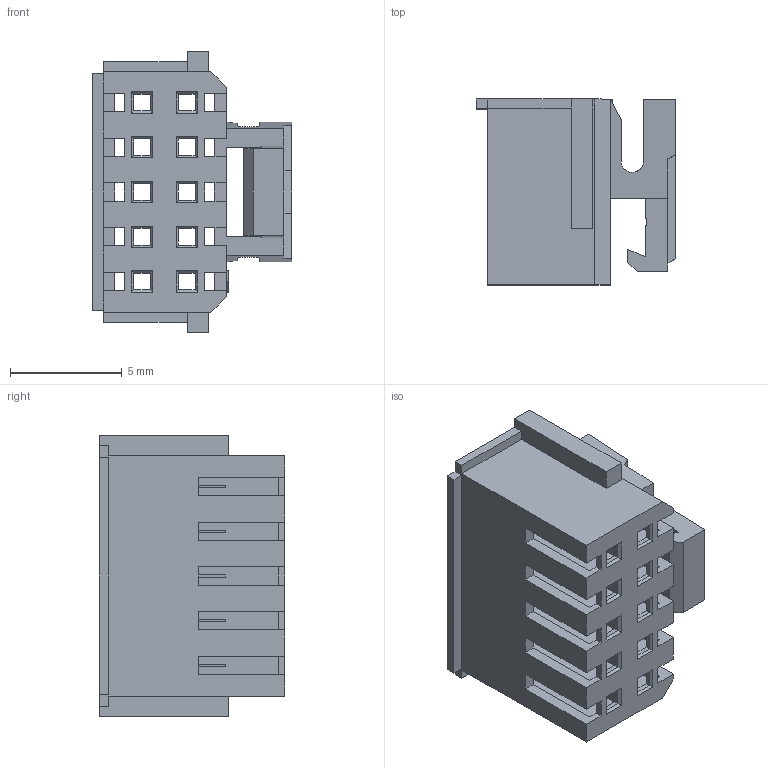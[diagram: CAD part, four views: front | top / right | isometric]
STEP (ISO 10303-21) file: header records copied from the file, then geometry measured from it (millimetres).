
FILE_DESCRIPTION(('CATIA V5 STEP Exchange'),'2;1');
FILE_NAME('Z:\3D文件\小覃\条形连接器-小黄\PHB 带导槽\NYC\HC-PHB-2x5YC-05(2.00 双排 孔座 带导槽-HCTL).stp','2025-04-14T03:55:11+00:00',('none'),('none'),'CATIA Version 5 Release 20 GA (IN-10)','CATIA V5 STEP AP203','none');
FILE_SCHEMA(('CONFIG_CONTROL_DESIGN'));
Length unit declared in the file: millimetre
Products named in the file (1): Part2
Bounding box: 8.92 x 8.3 x 12.6 mm (x, y, z)
Volume: 260.9 mm3; surface area: 1157.7 mm2
Topology: 1 solids, 1 shells, 270 faces, 798 edges, 518 vertices
Faces by surface type: plane 268, cylinder 2
Entity records: 8237 total; most frequent: ORIENTED_EDGE 1596, CARTESIAN_POINT 1532, DIRECTION 1038, EDGE_CURVE 798, VECTOR 754, LINE 754, VERTEX_POINT 518, EDGE_LOOP 300
